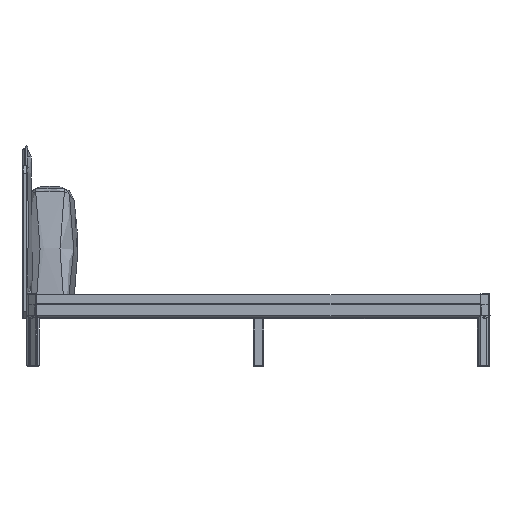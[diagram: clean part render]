
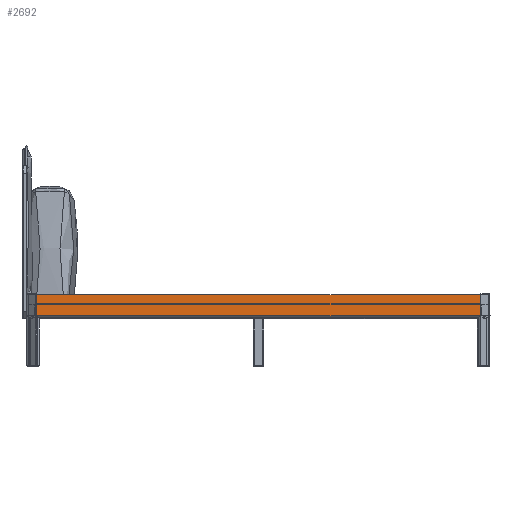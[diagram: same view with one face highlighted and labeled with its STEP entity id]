
A CAD part, left-side view. The second image highlights one B-rep face of the part: STEP entity #2692.
In plain terms, the highlighted planar face has unit normal (-1, 0, 0).
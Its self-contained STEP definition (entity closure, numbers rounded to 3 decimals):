
#2692=ADVANCED_FACE('',(#4834),#31984,.T.);
#4834=FACE_OUTER_BOUND('',#7024,.T.);
#7024=EDGE_LOOP('',(#17046,#17047,#17048,#17049,#17050,#17051));
#17046=ORIENTED_EDGE('',*,*,#22472,.F.);
#17047=ORIENTED_EDGE('',*,*,#22485,.F.);
#17048=ORIENTED_EDGE('',*,*,#22461,.F.);
#17049=ORIENTED_EDGE('',*,*,#22453,.F.);
#17050=ORIENTED_EDGE('',*,*,#22483,.F.);
#17051=ORIENTED_EDGE('',*,*,#22465,.F.);
#22453=EDGE_CURVE('',#30969,#30970,#24821,.T.);
#22461=EDGE_CURVE('',#30970,#30978,#24829,.T.);
#22465=EDGE_CURVE('',#30982,#30983,#24833,.T.);
#22472=EDGE_CURVE('',#30991,#30982,#24840,.T.);
#22483=EDGE_CURVE('',#30983,#30969,#27816,.T.);
#22485=EDGE_CURVE('',#30978,#30991,#24844,.T.);
#24821=B_SPLINE_CURVE_WITH_KNOTS('',1,(#66397,#66398),.UNSPECIFIED.,.F.,
 .F.,(2,2),(0.,100.963),.UNSPECIFIED.);
#24829=B_SPLINE_CURVE_WITH_KNOTS('',1,(#66427,#66428),.UNSPECIFIED.,.F.,
 .F.,(2,2),(0.,0.017),.UNSPECIFIED.);
#24833=B_SPLINE_CURVE_WITH_KNOTS('',1,(#66449,#66450),.UNSPECIFIED.,.F.,
 .F.,(2,2),(0.,100.963),.UNSPECIFIED.);
#24840=B_SPLINE_CURVE_WITH_KNOTS('',1,(#66491,#66492),.UNSPECIFIED.,.F.,
 .F.,(2,2),(0.,0.017),.UNSPECIFIED.);
#24844=B_SPLINE_CURVE_WITH_KNOTS('',1,(#66525,#66526),.UNSPECIFIED.,.F.,
 .F.,(2,2),(0.,2118.376),.UNSPECIFIED.);
#27816=(
BOUNDED_CURVE()
B_SPLINE_CURVE(1,(#66521,#66522),.UNSPECIFIED.,.F.,.F.)
B_SPLINE_CURVE_WITH_KNOTS((2,2),(0.,2118.4),.UNSPECIFIED.)
CURVE()
GEOMETRIC_REPRESENTATION_ITEM()
RATIONAL_B_SPLINE_CURVE((1.,1.))
REPRESENTATION_ITEM('')
);
#30969=VERTEX_POINT('',#66372);
#30970=VERTEX_POINT('',#66373);
#30978=VERTEX_POINT('',#66381);
#30982=VERTEX_POINT('',#66385);
#30983=VERTEX_POINT('',#66386);
#30991=VERTEX_POINT('',#66394);
#31984=PLANE('',#34601);
#34601=AXIS2_PLACEMENT_3D('',#66366,#36323,$);
#36323=DIRECTION('',(-1.,0.,0.));
#66366=CARTESIAN_POINT('',(-7005.5,1174.552,227.32));
#66372=CARTESIAN_POINT('',(-7005.5,-1155.7,338.404));
#66373=CARTESIAN_POINT('',(-7005.5,-1155.7,237.441));
#66381=CARTESIAN_POINT('',(-7005.5,-1155.688,237.429));
#66385=CARTESIAN_POINT('',(-7005.5,962.7,237.441));
#66386=CARTESIAN_POINT('',(-7005.5,962.7,338.404));
#66394=CARTESIAN_POINT('',(-7005.5,962.688,237.429));
#66397=CARTESIAN_POINT('',(-7005.5,-1155.7,338.404));
#66398=CARTESIAN_POINT('',(-7005.5,-1155.7,237.441));
#66427=CARTESIAN_POINT('',(-7005.5,-1155.7,237.441));
#66428=CARTESIAN_POINT('',(-7005.5,-1155.688,237.429));
#66449=CARTESIAN_POINT('',(-7005.5,962.7,237.441));
#66450=CARTESIAN_POINT('',(-7005.5,962.7,338.404));
#66491=CARTESIAN_POINT('',(-7005.5,962.688,237.429));
#66492=CARTESIAN_POINT('',(-7005.5,962.7,237.441));
#66521=CARTESIAN_POINT('',(-7005.5,962.7,338.404));
#66522=CARTESIAN_POINT('',(-7005.5,-1155.7,338.404));
#66525=CARTESIAN_POINT('',(-7005.5,-1155.688,237.429));
#66526=CARTESIAN_POINT('',(-7005.5,962.688,237.429));
